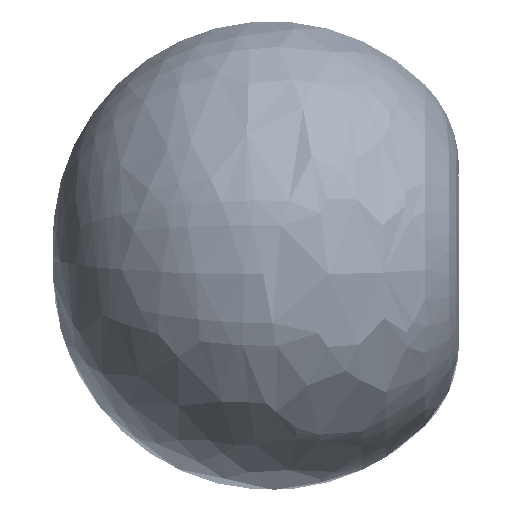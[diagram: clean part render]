
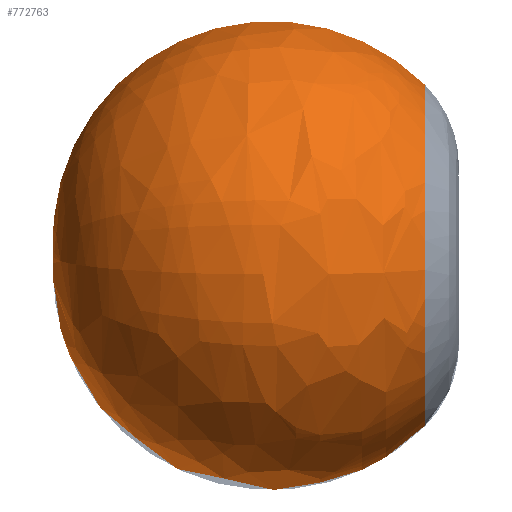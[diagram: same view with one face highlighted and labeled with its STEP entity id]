
A CAD part, left-side view. The second image highlights one B-rep face of the part: STEP entity #772763.
In plain terms, the highlighted free-form (B-spline) face has degree [3, 3] with [7, 4] control points.
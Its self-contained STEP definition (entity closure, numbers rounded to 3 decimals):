
#772556=CARTESIAN_POINT('',(12.638,589.,144.448));
#772557=DIRECTION('',(-0.996,0.,0.087));
#772558=DIRECTION('',(0.062,-0.706,0.705));
#772559=AXIS2_PLACEMENT_3D('',#772556,#772557,#772558);
#772576=CARTESIAN_POINT('',(0.,-729.513,0.));
#772577=DIRECTION('',(0.,1.,0.));
#772578=DIRECTION('',(0.087,0.,0.996));
#772579=AXIS2_PLACEMENT_3D('',#772576,#772577,#772578);
#772591=CARTESIAN_POINT('',(-12.638,589.,144.448));
#772592=DIRECTION('',(-0.996,0.,-0.087));
#772593=DIRECTION('',(-0.062,-0.706,0.705));
#772594=AXIS2_PLACEMENT_3D('',#772591,#772592,#772593);
#772615=CARTESIAN_POINT('',(127.886,-729.513,
1461.743));
#772616=VERTEX_POINT('',#772615);
#772617=CARTESIAN_POINT('',(0.,2450.719,0.));
#772618=VERTEX_POINT('',#772617);
#772627=CARTESIAN_POINT('',(-127.886,-729.513,
1461.743));
#772628=VERTEX_POINT('',#772627);
#772728=CARTESIAN_POINT('',(0.,2450.719,0.));
#772729=CARTESIAN_POINT('',(-5.982,2617.129,
2136.597));
#772730=CARTESIAN_POINT('',(-8.363,649.931,
2986.834));
#772731=CARTESIAN_POINT('',(-3.925,-792.258,
1401.637));
#772732=CARTESIAN_POINT('',(0.,2450.719,
0.));
#772733=CARTESIAN_POINT('',(-4267.242,2617.129,
2124.666));
#772734=CARTESIAN_POINT('',(-5965.346,649.931,
2970.154));
#772735=CARTESIAN_POINT('',(-2799.369,-792.258,
1393.81));
#772736=CARTESIAN_POINT('',(0.,2450.719,
0.));
#772737=CARTESIAN_POINT('',(-4261.276,2617.129,
-2136.606));
#772738=CARTESIAN_POINT('',(-5957.006,649.931,
-2986.846));
#772739=CARTESIAN_POINT('',(-2795.455,-792.258,
-1401.642));
#772740=CARTESIAN_POINT('',(0.,2450.719,0.));
#772741=CARTESIAN_POINT('',(0.,2617.129,
-2136.606));
#772742=CARTESIAN_POINT('',(0.,649.931,
-2986.846));
#772743=CARTESIAN_POINT('',(0.,-792.258,
-1401.642));
#772744=CARTESIAN_POINT('',(0.,2450.719,
0.));
#772745=CARTESIAN_POINT('',(4261.276,2617.129,
-2136.606));
#772746=CARTESIAN_POINT('',(5957.006,649.931,
-2986.846));
#772747=CARTESIAN_POINT('',(2795.455,-792.258,
-1401.642));
#772748=CARTESIAN_POINT('',(0.,2450.719,
0.));
#772749=CARTESIAN_POINT('',(4267.242,2617.129,
2124.666));
#772750=CARTESIAN_POINT('',(5965.346,649.931,
2970.154));
#772751=CARTESIAN_POINT('',(2799.369,-792.258,
1393.81));
#772752=CARTESIAN_POINT('',(0.,2450.719,0.));
#772753=CARTESIAN_POINT('',(5.982,2617.129,
2136.597));
#772754=CARTESIAN_POINT('',(8.363,649.931,
2986.834));
#772755=CARTESIAN_POINT('',(3.925,-792.258,
1401.637));
#772756=(BOUNDED_SURFACE()B_SPLINE_SURFACE(3,3,((#772728,#772729,#772730,
#772731),(#772732,#772733,#772734,#772735),(#772736,#772737,#772738,#772739),(
#772740,#772741,#772742,#772743),(#772744,#772745,#772746,#772747),(#772748,
#772749,#772750,#772751),(#772752,#772753,#772754,#772755)),.UNSPECIFIED.,.F.,
.F.,.F.)B_SPLINE_SURFACE_WITH_KNOTS((4,3,4),(4,4),(0.,1.,2.),(0.,1.),
.UNSPECIFIED.)GEOMETRIC_REPRESENTATION_ITEM()RATIONAL_B_SPLINE_SURFACE(((
3.016,1.657,1.657,3.016),(
1.008,0.554,0.554,1.008),(
1.008,0.554,0.554,1.008),(
3.016,1.657,1.657,3.016),(
1.008,0.554,0.554,1.008),(
1.008,0.554,0.554,1.008),(
3.016,1.657,1.657,3.016)))REPRESENTATION_ITEM('')SURFACE());
#772757=ORIENTED_EDGE('',*,*,#772644,.T.);
#772759=ORIENTED_EDGE('',*,*,#772758,.F.);
#772760=ORIENTED_EDGE('',*,*,#772720,.F.);
#772761=EDGE_LOOP('',(#772757,#772759,#772760));
#772762=FACE_OUTER_BOUND('',#772761,.F.);
#772763=ADVANCED_FACE('',(#772762),#772756,.T.);
#772560=CIRCLE('',#772559,1867.357);
#772580=CIRCLE('',#772579,1467.327);
#772595=CIRCLE('',#772594,1867.357);
#772644=EDGE_CURVE('',#772616,#772618,#772560,.T.);
#772720=EDGE_CURVE('',#772616,#772628,#772580,.T.);
#772758=EDGE_CURVE('',#772628,#772618,#772595,.T.);
